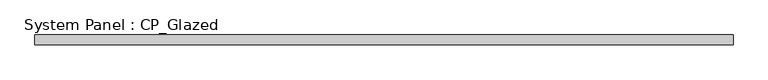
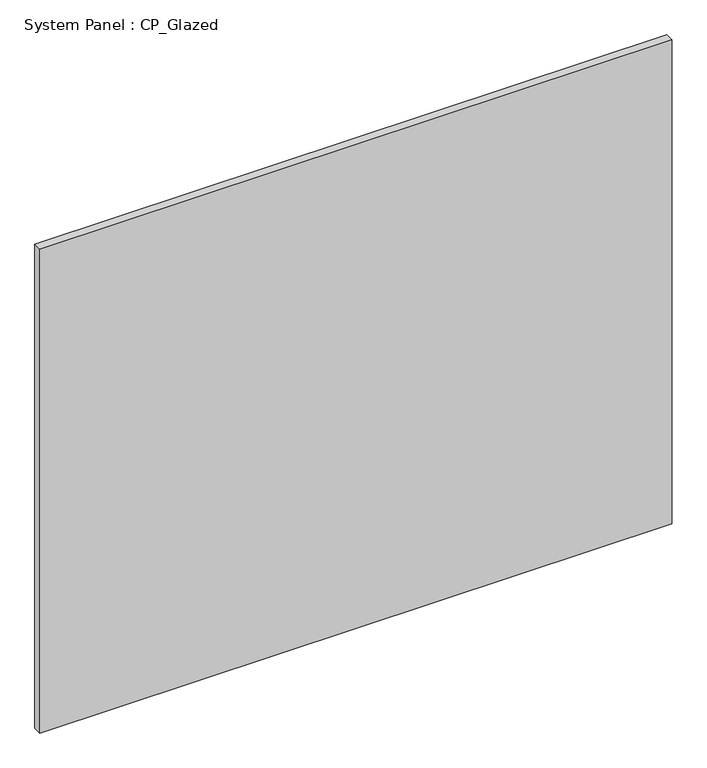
"""IFC4 building model written with IfcOpenShell, lengths in millimetres: plate geometry, System Panel : CP_Glazed."""

from ifc_helpers import new_model, si_unit, origin, origin_with_axes, place, context, project, spatial, polyline, outline, extrude, source, transform, mapped, element, save


def system_panel_cp_glazed_a2b9307b(model_context):
    return source(origin(), model_context, "Body", "SweptSolid", [
        extrude(outline(polyline([(915.035, 19.05), (-915.035, 19.05), (-915.035, 44.45), (915.035, 44.45), (915.035, 19.05)])), origin_with_axes(), (0.0, 0.0, 1.0), 1479.55),
    ])


if __name__ == "__main__":
    model = new_model("IFC4")
    model_context = context("Model", 3, world=origin())
    ifc_project = project(units=[si_unit("LENGTHUNIT", "METRE", prefix="MILLI")], contexts=[model_context])
    site = spatial("IfcSite", under=ifc_project)
    building = spatial("IfcBuilding", under=site)
    placement = place(None, origin())
    system_panel_cp_glazed_shape = system_panel_cp_glazed_a2b9307b(model_context)
    element("IfcPlate", 1, ObjectType="System Panel : CP_Glazed", at=placement, inside=building, context=model_context, shape_type="MappedRepresentation", body=[
        mapped(system_panel_cp_glazed_shape, transform((0.0, 0.0, 0.0), x_axis=(1.0, 0.0, 0.0), y_axis=(0.0, 1.0, 0.0), z_axis=(0.0, 0.0, 1.0))),
    ])
    save(model, "model.ifc")
